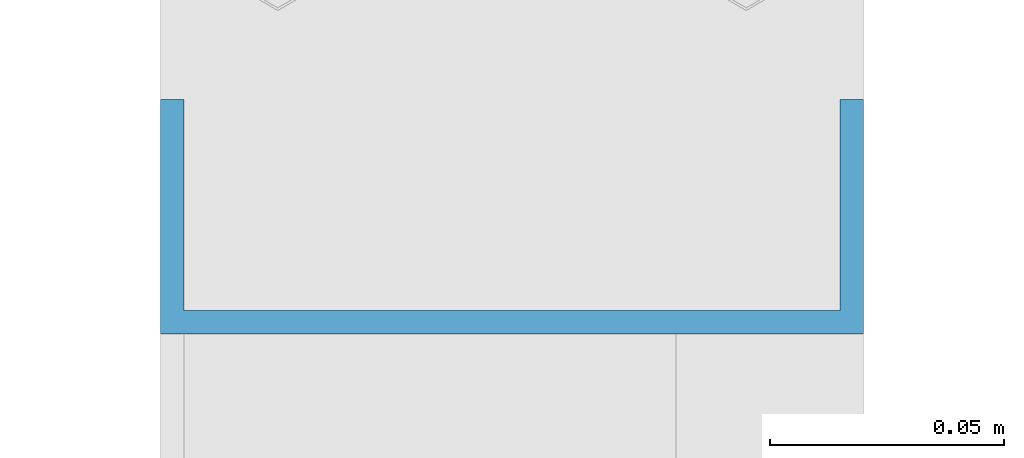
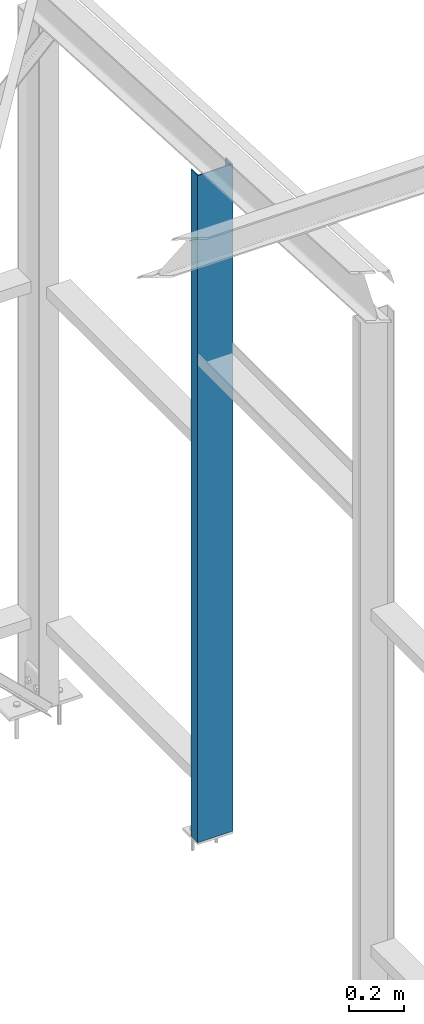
# One storey, part 38 of 123: 1 beam, 1 element without a shape of its own.
"""IFC2X3 building model written with IfcOpenShell, lengths in millimetres."""

from ifc_helpers import new_model, si_unit, frame, origin_with_axes, origin_2d_with_axis, place, context, subcontext, project, spatial, u_section, extrude, material, type_object, element, aggregate, save


model = new_model("IFC2X3")

# Units and contexts
model_context = context("Model", 3, precision=1e-05, world=origin_with_axes())
body_context = subcontext(model_context, "Body", "Model", "MODEL_VIEW")
ifc_project = project(units=[si_unit("LENGTHUNIT", "METRE", prefix="MILLI"), si_unit("AREAUNIT", "SQUARE_METRE"), si_unit("VOLUMEUNIT", "CUBIC_METRE"), si_unit("MASSUNIT", "GRAM", prefix="KILO"), si_unit("TIMEUNIT", "SECOND"), si_unit("PLANEANGLEUNIT", "RADIAN"), si_unit("SOLIDANGLEUNIT", "STERADIAN"), si_unit("THERMODYNAMICTEMPERATUREUNIT", "DEGREE_CELSIUS"), si_unit("LUMINOUSINTENSITYUNIT", "LUMEN")], contexts=[model_context])

# Site, building, storey
site_placement = place(None, origin_with_axes())
site = spatial("IfcSite", under=ifc_project, at=site_placement, Name="Undefined", CompositionType="ELEMENT")
building_placement = place(site_placement, origin_with_axes())
building = spatial("IfcBuilding", under=site, at=building_placement, Name="Undefined", CompositionType="ELEMENT")
storey_placement = place(building_placement, origin_with_axes())
storey = spatial("IfcBuildingStorey", under=building, at=storey_placement, Name="Undefined", CompositionType="ELEMENT", Elevation=0.0)

# Assembly, beam
assembly_placement = place(storey_placement, origin_with_axes())
assembly = element("IfcElementAssembly", 1, at=assembly_placement, inside=storey, Name="Steel Assembly", AssemblyPlace="NOTDEFINED", PredefinedType="RIGID_FRAME")
ifc_material = material(Name="STEEL/S235-E24")
beam_type = type_object("IfcBeamType", Name="UPF-150*50*5", PredefinedType="NOTDEFINED")
beam_placement = place(assembly_placement, frame((32044.9999688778, 27994.9999782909, 2886.30445751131), z_axis=(-1.0, 0.0, 0.0), x_axis=(0.0, 0.0, -1.0)))
beam = element("IfcBeam", 2, at=beam_placement, type_object=beam_type, material=ifc_material, Name="MONTANT", ObjectType="UPF-150*50*5", context=body_context, shape_type="SweptSolid", body=[
    extrude(u_section(Depth=150.0, FlangeWidth=50.0, WebThickness=5.0, FlangeThickness=5.0, at=origin_2d_with_axis()), frame((2976.30445630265, 0.0, 0.0), z_axis=(-1.0, 0.0, 0.0), x_axis=(0.0, -1.0, 0.0)), (0.0, 0.0, 1.0), 2976.3),
])
aggregate(assembly, [beam])

save(model, "model.ifc")
